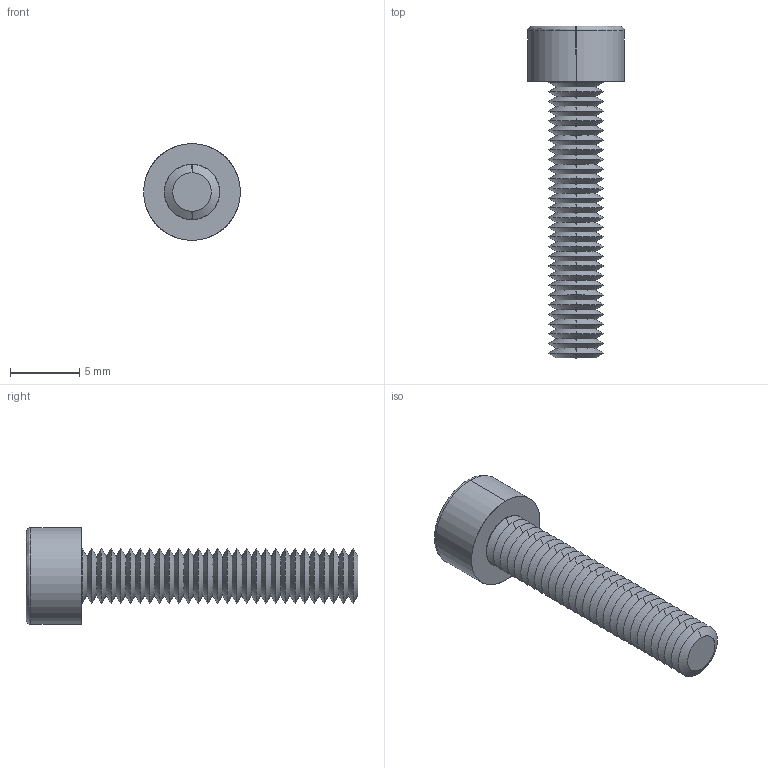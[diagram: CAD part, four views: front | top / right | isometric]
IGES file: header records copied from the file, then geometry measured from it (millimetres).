
Start section: SolidWorks IGES file using analytic representation for surfaces
Global section: file name: C:\Users\ianosborn\Desktop\N0007.91N_v2\N0007.91N_v2_20250519_IGES\91N.040.0200.igs; native system: SolidWorks 2019; preprocessor: SolidWorks 2019; author: IanOsborn; date: 250520.095122; units: millimetre
Bounding box: 7 x 24 x 7 mm (x, y, z)
Surface area: 613.1 mm2 (no closed solid volume)
Topology: 0 solids, 0 shells, 144 faces, 761 edges, 759 vertices
Faces by surface type: revolution 127, bspline 17
